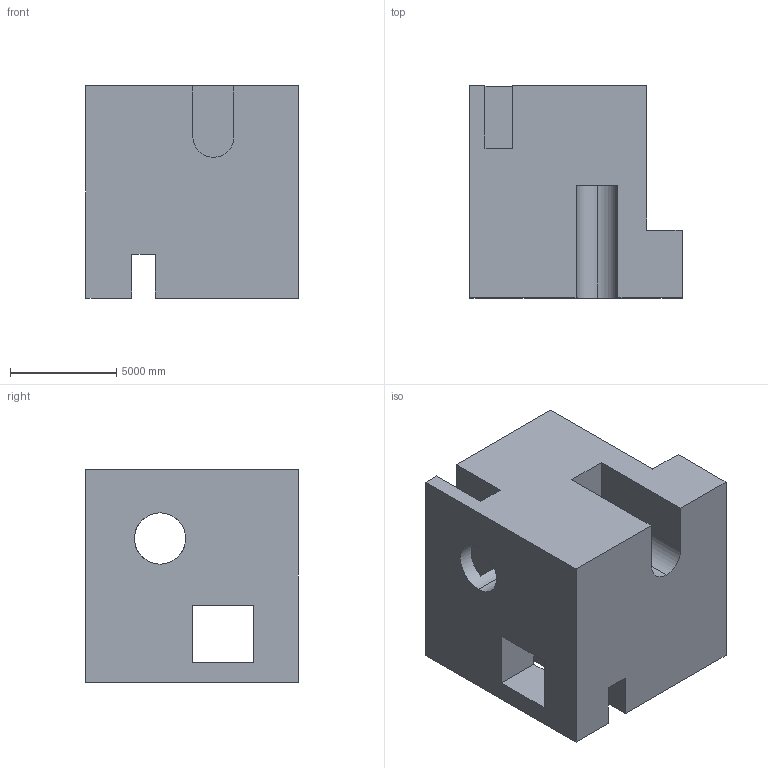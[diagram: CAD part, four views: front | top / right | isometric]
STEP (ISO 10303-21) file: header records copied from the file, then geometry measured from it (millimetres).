
FILE_DESCRIPTION (( 'STEP AP203' ), '1' );
FILE_NAME ('104.STEP', '2022-08-31T11:35:43', ( 'user' ), ( '' ), 'SwSTEP 2.0', 'SolidWorks 2021', '' );
FILE_SCHEMA (( 'CONFIG_CONTROL_DESIGN' ));
Length unit declared in the file: centimetre
Products named in the file (1): 104
Bounding box: 10000 x 10000 x 10000 mm (x, y, z)
Volume: 664001450059.9 mm3; surface area: 798897734.8 mm2
Topology: 1 solids, 1 shells, 32 faces, 102 edges, 68 vertices
Faces by surface type: plane 28, cylinder 4
Entity records: 1207 total; most frequent: CARTESIAN_POINT 209, ORIENTED_EDGE 204, DIRECTION 174, EDGE_CURVE 102, LINE 92, VECTOR 92, VERTEX_POINT 68, AXIS2_PLACEMENT_3D 41
